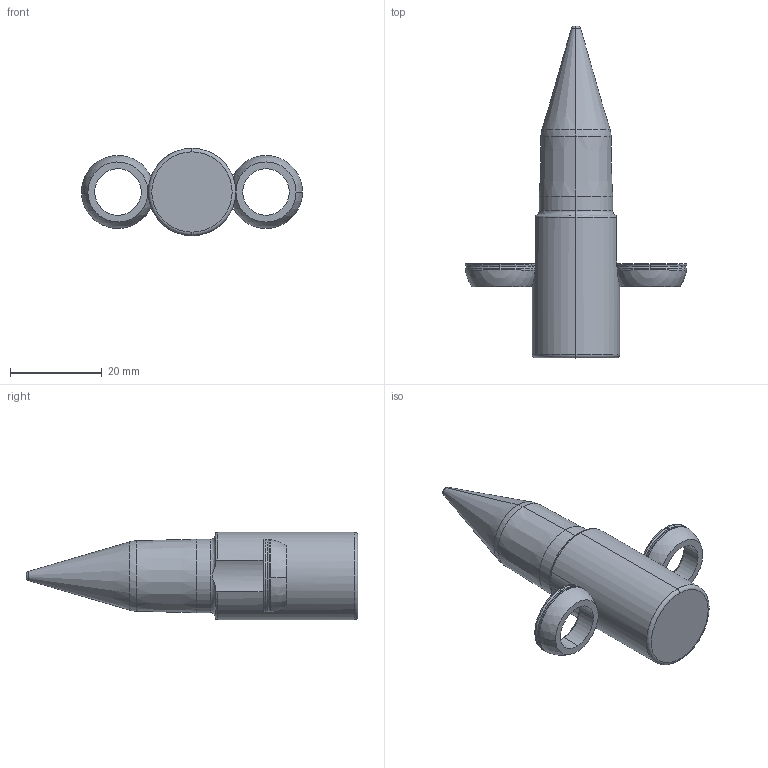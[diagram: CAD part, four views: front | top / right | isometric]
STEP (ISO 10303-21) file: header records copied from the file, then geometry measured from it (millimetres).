
FILE_DESCRIPTION (( 'STEP AP214' ), '1' );
FILE_NAME ('PA-T-16mm-3.2mm-13mm-3-A-F2.STEP', '2019-05-08T18:09:34', ( '' ), ( '' ), 'SwSTEP 2.0', 'SolidWorks 2017', '' );
FILE_SCHEMA (( 'AUTOMOTIVE_DESIGN' ));
Length unit declared in the file: inch
Products named in the file (3): PA-T-16mm-3.2mm-13mm-3-A-F2; SLPilot-PA-T-M_PA-T-16-3.2-13-3-A-F2; SLRadiusWasher_RadiusWasher-M
Assembly tree (3 placements, depth 2):
  PA-T-16mm-3.2mm-13mm-3-A-F2
    SLRadiusWasher_RadiusWasher-M  x2
    SLPilot-PA-T-M_PA-T-16-3.2-13-3-A-F2
Bounding box: 48.06 x 72.18 x 19 mm (x, y, z)
Volume: 14658.6 mm3; surface area: 4834.4 mm2
Topology: 3 solids, 3 shells, 61 faces, 136 edges, 81 vertices
Faces by surface type: torus 19, cylinder 18, cone 8, sphere 8, plane 8
Entity records: 1565 total; most frequent: CARTESIAN_POINT 344, DIRECTION 266, ORIENTED_EDGE 204, AXIS2_PLACEMENT_3D 123, EDGE_CURVE 102, CIRCLE 72, VERTEX_POINT 61, EDGE_LOOP 47
